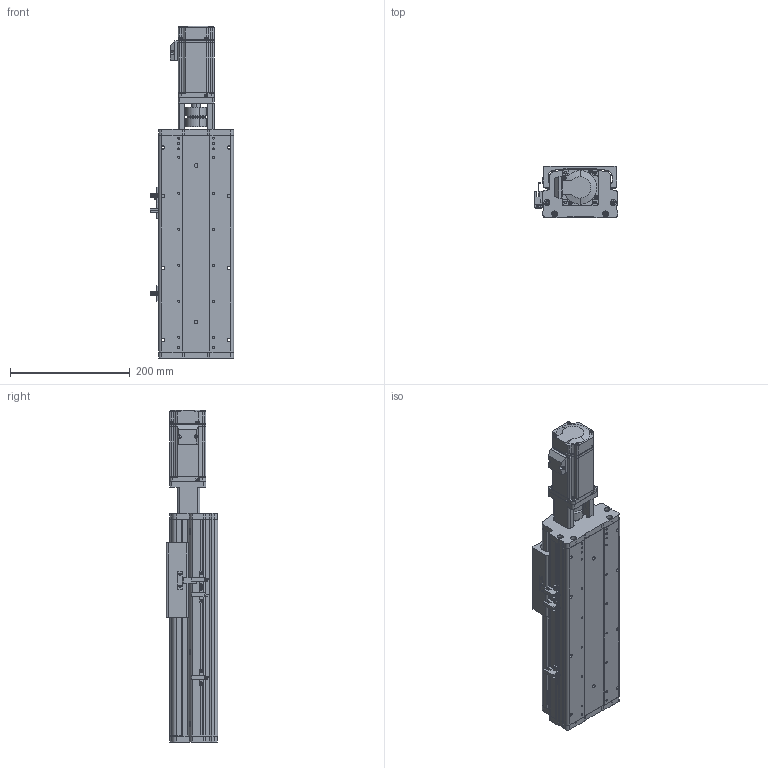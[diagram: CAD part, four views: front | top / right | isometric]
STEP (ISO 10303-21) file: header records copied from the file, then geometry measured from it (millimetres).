
FILE_DESCRIPTION (( 'STEP AP214' ), '1' );
FILE_NAME ('KSD125S-S150-MT-CM.STEP', '2017-08-07T06:35:01', ( '微软用户' ), ( '微软中国' ), 'SwSTEP 2.0', 'SolidWorks 2014', '' );
FILE_SCHEMA (( 'AUTOMOTIVE_DESIGN' ));
Length unit declared in the file: millimetre
Products named in the file (13): KSD125S-150俴最佪裝滅鳥裔; KSD125S-150俴最佪裝菁啣; MHMD042G1CA_2_03; 100遵鎮湛假蚾啣1 ; 拸萇儂釱滅袉菜; 覜茼え68遵圉猾敕; U倰嫖萇假蚾璃; U倰嫖萇EEㄜSX672; ヶ傷啣-125遵耀郪; KSD125-賑雄釱1; CS-34X32-10X14; 125-帣傷啣1; KSD125S-S150-MT-CM
Assembly tree (16 placements, depth 2):
  KSD125S-S150-MT-CM
    125-帣傷啣1
    CS-34X32-10X14
    KSD125-賑雄釱1
    ヶ傷啣-125遵耀郪
    U倰嫖萇EEㄜSX672  x3
    U倰嫖萇假蚾璃  x3
    覜茼え68遵圉猾敕
    拸萇儂釱滅袉菜
    100遵鎮湛假蚾啣1 
    MHMD042G1CA_2_03
    KSD125S-150俴最佪裝菁啣
    KSD125S-150俴最佪裝滅鳥裔
Bounding box: 138.7 x 86 x 553.5 mm (x, y, z)
Volume: 1635997.3 mm3; surface area: 562153.3 mm2
Topology: 15 solids, 18 shells, 1478 faces, 4256 edges, 2799 vertices
Faces by surface type: cylinder 730, plane 635, cone 91, bspline 22
Entity records: 51653 total; most frequent: CARTESIAN_POINT 10944, DIRECTION 7394, ORIENTED_EDGE 7020, EDGE_CURVE 3588, AXIS2_PLACEMENT_3D 2711, VERTEX_POINT 2391, VECTOR 1972, LINE 1972
